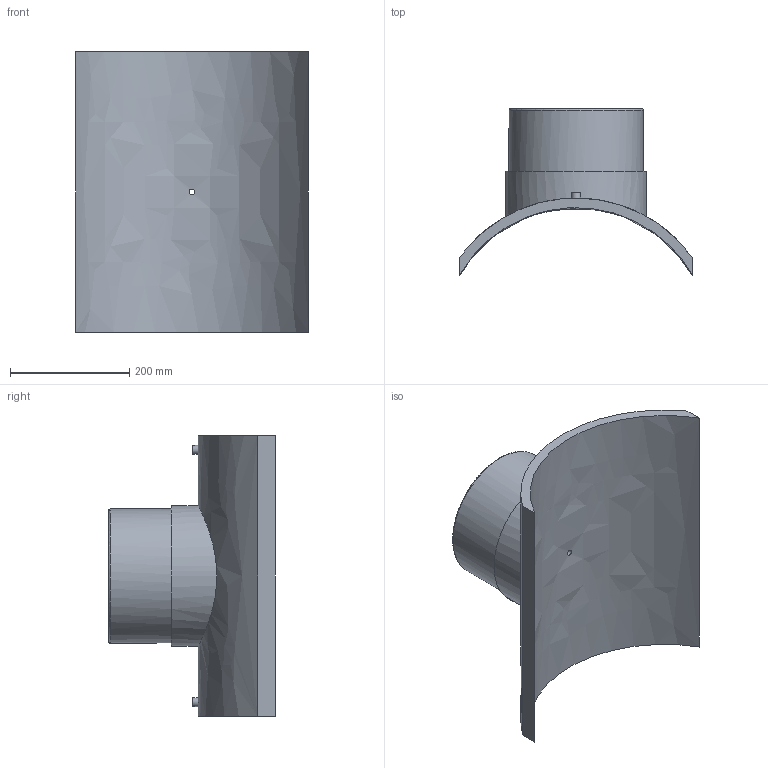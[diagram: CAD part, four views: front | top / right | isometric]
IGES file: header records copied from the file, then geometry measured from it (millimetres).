
Global section: file name: 495803450225T; native system: Autodesk Inventor 2019; preprocessor: unknown; author: KIM; date: 20240404.114839; units: millimetre
Bounding box: 390 x 278.75 x 470 mm (x, y, z)
Volume: 6036365.3 mm3; surface area: 692723.1 mm2
Topology: 1 solids, 1 shells, 29 faces, 60 edges, 43 vertices
Faces by surface type: bspline 29
